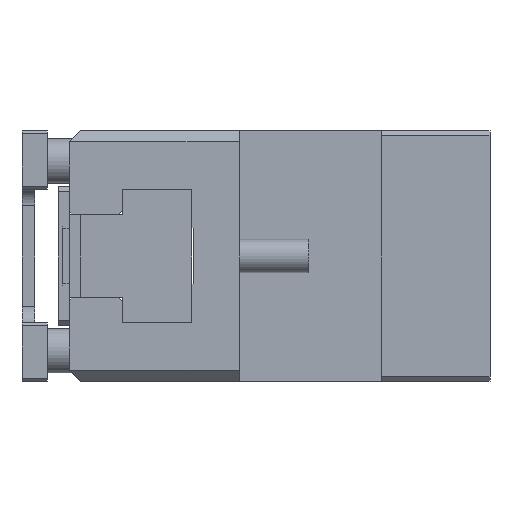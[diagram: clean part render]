
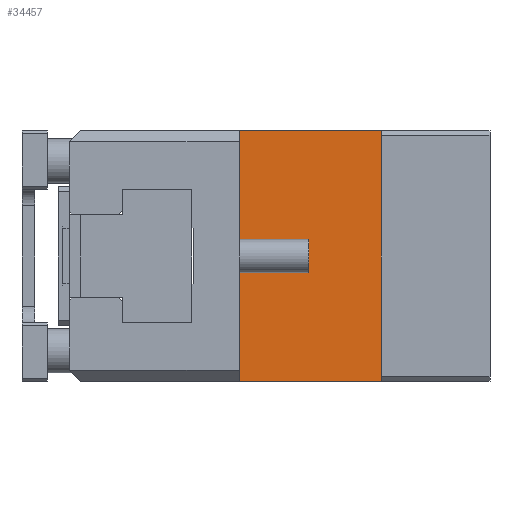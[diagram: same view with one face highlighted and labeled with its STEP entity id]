
A CAD part, left-side view. The second image highlights one B-rep face of the part: STEP entity #34457.
In plain terms, the highlighted planar face has unit normal (-1, 0, 0).
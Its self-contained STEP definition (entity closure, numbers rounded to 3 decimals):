
#1749 = VECTOR ( 'NONE', #42555, 1000. ) ;
#3666 = VERTEX_POINT ( 'NONE', #27414 ) ;
#4859 = AXIS2_PLACEMENT_3D ( 'NONE', #32907, #8947, #36905 ) ;
#8947 = DIRECTION ( 'NONE',  ( 1., 0., 0. ) ) ;
#9764 = LINE ( 'NONE', #34188, #51029 ) ;
#10076 = CARTESIAN_POINT ( 'NONE',  ( -78., 0., 45. ) ) ;
#11269 = DIRECTION ( 'NONE',  ( 0., -1., 0. ) ) ;
#14238 = DIRECTION ( 'NONE',  ( 0., -1., 0. ) ) ;
#14573 = CARTESIAN_POINT ( 'NONE',  ( -78., 0., 45. ) ) ;
#14757 = EDGE_CURVE ( 'NONE', #16633, #42160, #44299, .T. ) ;
#16623 = PLANE ( 'NONE',  #4859 ) ;
#16633 = VERTEX_POINT ( 'NONE', #42144 ) ;
#19288 = CARTESIAN_POINT ( 'NONE',  ( -78., 51., -45. ) ) ;
#20145 = EDGE_CURVE ( 'NONE', #42821, #3666, #29893, .T. ) ;
#20228 = EDGE_CURVE ( 'NONE', #3666, #16633, #39229, .T. ) ;
#23451 = ORIENTED_EDGE ( 'NONE', *, *, #40925, .F. ) ;
#25424 = ORIENTED_EDGE ( 'NONE', *, *, #20228, .T. ) ;
#27414 = CARTESIAN_POINT ( 'NONE',  ( -78., 51., -45. ) ) ;
#29893 = LINE ( 'NONE', #45470, #51118 ) ;
#31216 = EDGE_LOOP ( 'NONE', ( #37533, #23451, #33363, #25424 ) ) ;
#32907 = CARTESIAN_POINT ( 'NONE',  ( -78., 51., 45. ) ) ;
#33363 = ORIENTED_EDGE ( 'NONE', *, *, #20145, .T. ) ;
#34188 = CARTESIAN_POINT ( 'NONE',  ( -78., 51., 45. ) ) ;
#34457 = ADVANCED_FACE ( 'NONE', ( #45678 ), #16623, .F. ) ;
#36905 = DIRECTION ( 'NONE',  ( 0., 0., -1. ) ) ;
#37533 = ORIENTED_EDGE ( 'NONE', *, *, #14757, .T. ) ;
#38972 = CARTESIAN_POINT ( 'NONE',  ( -78., 51., 45. ) ) ;
#39229 = LINE ( 'NONE', #19288, #49895 ) ;
#40925 = EDGE_CURVE ( 'NONE', #42821, #42160, #9764, .T. ) ;
#42144 = CARTESIAN_POINT ( 'NONE',  ( -78., 0., -45. ) ) ;
#42160 = VERTEX_POINT ( 'NONE', #10076 ) ;
#42555 = DIRECTION ( 'NONE',  ( 0., 0., 1. ) ) ;
#42821 = VERTEX_POINT ( 'NONE', #38972 ) ;
#44299 = LINE ( 'NONE', #14573, #1749 ) ;
#45470 = CARTESIAN_POINT ( 'NONE',  ( -78., 51., 45. ) ) ;
#45678 = FACE_OUTER_BOUND ( 'NONE', #31216, .T. ) ;
#49504 = DIRECTION ( 'NONE',  ( 0., 0., -1. ) ) ;
#49895 = VECTOR ( 'NONE', #11269, 1000. ) ;
#51029 = VECTOR ( 'NONE', #14238, 1000. ) ;
#51118 = VECTOR ( 'NONE', #49504, 1000. ) ;
